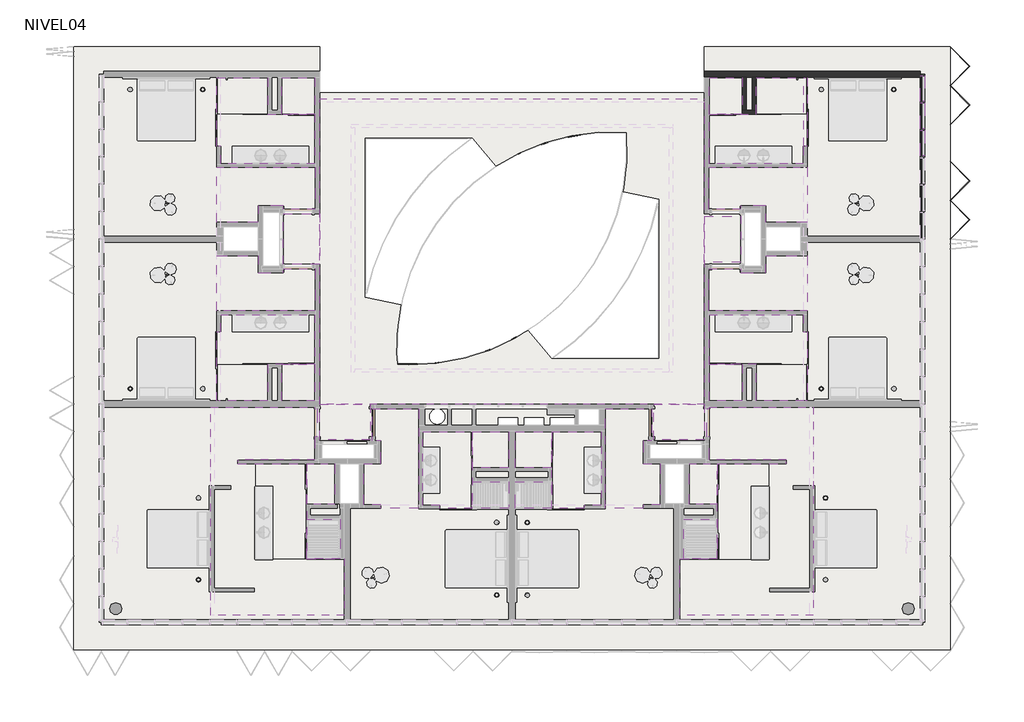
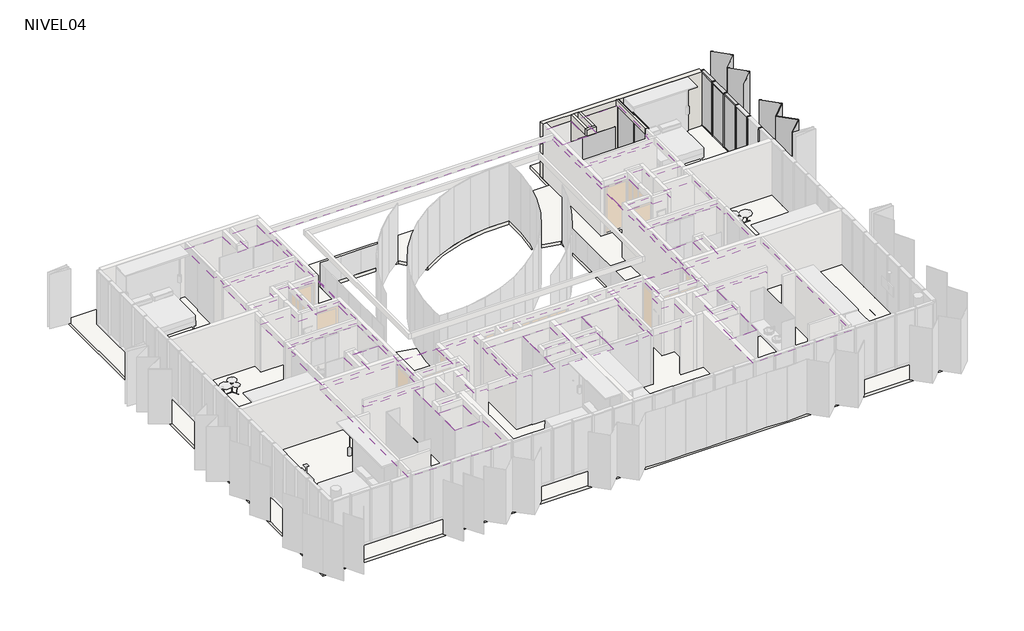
# One storey, part 7 of 8: 31 coverings, 17 slabs, 15 members, 8 plates, 8 walls.
"""IFC4 building model written with IfcOpenShell, lengths in millimetres."""

from ifc_helpers import new_model, si_unit, point, frame, frame_2d, origin, place, context, project, spatial, polyline, circle_curve, trimmed, segment, composite_curve, outline, extrude, faceted_brep, transform, mapped, element, save
from components import rectangular_mullion_50_x_150mm_8dc60d6a, rectangular_mullion_50_x_150mm_324a6438, rectangular_mullion_50_x_150mm_33c2bde1, rectangular_mullion_50_x_150mm_da4cfd0d, folding_hd_folding_hd_45_e61f1cbf, panel_corredera_cr_panel_corredera_0b5135b5, system_panel_cr_shower_c0953742, system_panel_cr_shower_d0c7b907, system_panel_glazed_6ccc6dc1, system_panel_glazed_38744f95

model = new_model("IFC4")

# Units and contexts
model_context = context("Model", 3, world=origin())
ifc_project = project(units=[si_unit("LENGTHUNIT", "METRE", prefix="MILLI")], contexts=[model_context])

# Site, building, storey
site = spatial("IfcSite", under=ifc_project)
building = spatial("IfcBuilding", under=site)
storey = spatial("IfcBuildingStorey", under=building, Name="NIVEL04", Elevation=7940.0)

# Coverings
placement = place(None, origin())
element("IfcCovering", 1, ObjectType="CI_VOLCANITA-ST", at=placement, inside=storey, context=model_context, shape_type="SweptSolid", body=[
    extrude(outline(polyline([(-16848.5934748, 10423.9139241), (-15183.5934748, 10423.9139241), (-15183.5934748, 9233.9139241), (-13643.5934748, 9233.9139241), (-13643.5934748, 7603.9139241), (-16728.5934748, 7603.9139241), (-16728.5934748, 8173.9139241), (-16848.5934748, 8173.9139241), (-16848.5934748, 10423.9139241)])), frame((0.0, 0.0, 10190.0), z_axis=(0.0, 0.0, 1.0), x_axis=(1.0, 0.0, 0.0)), (0.0, 0.0, 1.0), 55.0),
])
element("IfcCovering", 2, ObjectType="CI_VOLCANITA-RH", at=placement, inside=storey, context=model_context, shape_type="SweptSolid", body=[
    extrude(outline(polyline([(-14723.5934748, 10423.9139241), (-13643.5934748, 10423.9139241), (-13643.5934748, 9233.9139241), (-14723.5934748, 9233.9139241), (-14723.5934748, 10423.9139241)])), frame((0.0, 0.0, 10190.0), z_axis=(0.0, 0.0, 1.0), x_axis=(1.0, 0.0, 0.0)), (0.0, 0.0, 1.0), 55.0),
])
element("IfcCovering", 3, ObjectType="CI_VOLCANITA-ST", at=placement, inside=storey, context=model_context, shape_type="SweptSolid", body=[
    extrude(outline(polyline([(2686.4065252, -7185.2015033), (-1683.5934748, -7185.2015033), (-1683.5934748, -5336.0862189), (-453.5934748, -5336.0862189), (-453.5934748, -2216.0860759), (1806.4065252, -2216.0860759), (1806.4065252, -2098.0860759), (-723.5934748, -2098.0860759), (-723.5934748, -1341.0860759), (-798.5934748, -1341.0860759), (-798.5934748, -426.0860759), (-723.5934748, -426.0860759), (-723.5934748, -366.0860759), (2686.4065252, -366.0860759), (2686.4065252, -7185.2015033)])), frame((0.0, 0.0, 10190.0), z_axis=(0.0, 0.0, 1.0), x_axis=(1.0, 0.0, 0.0)), (0.0, 0.0, 1.0), 55.0),
])
element("IfcCovering", 4, ObjectType="CI_VOLCANITA-RH", at=placement, inside=storey, context=model_context, shape_type="SweptSolid", body=[
    extrude(outline(polyline([(-1373.5934748, -3556.0862189), (-1373.5934748, -2226.0860759), (-453.5434748, -2226.0860759), (-453.5434748, -3556.0862189), (-1373.5934748, -3556.0862189)])), frame((0.0, 0.0, 10190.0), z_axis=(0.0, 0.0, 1.0), x_axis=(1.0, 0.0, 0.0)), (0.0, 0.0, 1.0), 55.0),
])
element("IfcCovering", 5, ObjectType="CI_VOLCANITA-RH", at=placement, inside=storey, context=model_context, shape_type="SweptSolid", body=[
    extrude(outline(polyline([(-1553.5934748, -4036.0862189), (-453.5434748, -4036.0862189), (-453.5434748, -5336.1362189), (-1553.5934748, -5336.1362189), (-1553.5934748, -4036.0862189)])), frame((0.0, 0.0, 10190.0), z_axis=(0.0, 0.0, 1.0), x_axis=(1.0, 0.0, 0.0)), (0.0, 0.0, 1.0), 55.0),
])
element("IfcCovering", 6, ObjectType="CI_VOLCANITA-ST", at=placement, inside=storey, context=model_context, shape_type="SweptSolid", body=[
    extrude(outline(polyline([(-17053.5934748, -7185.2015033), (-17053.5934748, -366.0860759), (-13643.5934748, -366.0860759), (-13643.5934748, -426.0860759), (-13568.5934748, -426.0860759), (-13568.5934748, -1341.0860759), (-13643.5934748, -1341.0860759), (-13643.5934748, -2098.0860759), (-16173.5934748, -2098.0860759), (-16173.5934748, -2216.0860759), (-13913.5934748, -2216.0860759), (-13913.5934748, -5336.0862189), (-12683.5934748, -5336.0862189), (-12683.5934748, -7185.2015033), (-17053.5934748, -7185.2015033)])), frame((0.0, 0.0, 10190.0), z_axis=(0.0, 0.0, 1.0), x_axis=(1.0, 0.0, 0.0)), (0.0, 0.0, 1.0), 55.0),
])
element("IfcCovering", 7, ObjectType="CI_VOLCANITA-RH", at=placement, inside=storey, context=model_context, shape_type="SweptSolid", body=[
    extrude(outline(polyline([(-12993.5934748, -3556.0862189), (-13913.6434748, -3556.0862189), (-13913.6434748, -2226.0860759), (-12993.5934748, -2226.0860759), (-12993.5934748, -3556.0862189)])), frame((0.0, 0.0, 10190.0), z_axis=(0.0, 0.0, 1.0), x_axis=(1.0, 0.0, 0.0)), (0.0, 0.0, 1.0), 55.0),
])
element("IfcCovering", 8, ObjectType="CI_VOLCANITA-RH", at=placement, inside=storey, context=model_context, shape_type="SweptSolid", body=[
    extrude(outline(polyline([(-12813.5934748, -4036.0862189), (-12813.5934748, -5336.1362189), (-13913.6434748, -5336.1362189), (-13913.6434748, -4036.0862189), (-12813.5934748, -4036.0862189)])), frame((0.0, 0.0, 10190.0), z_axis=(0.0, 0.0, 1.0), x_axis=(1.0, 0.0, 0.0)), (0.0, 0.0, 1.0), 55.0),
])
element("IfcCovering", 9, ObjectType="CI_VOLCANITA-ST", at=placement, inside=storey, context=model_context, shape_type="SweptSolid", body=[
    extrude(outline(polyline([(-5883.5921504, -1176.0860759), (-4253.5934748, -1176.0860759), (-4253.5934748, -3586.0862189), (-4823.5934748, -3586.0862189), (-4823.5934748, -3686.0862189), (-5883.5921504, -3686.0862189), (-5883.5921504, -1176.0860759)])), frame((0.0, 0.0, 10190.0), z_axis=(0.0, 0.0, 1.0), x_axis=(1.0, 0.0, 0.0)), (0.0, 0.0, 1.0), 55.0),
])
element("IfcCovering", 10, ObjectType="CI_VOLCANITA-RH", at=placement, inside=storey, context=model_context, shape_type="SweptSolid", body=[
    extrude(outline(polyline([(-5883.5921504, -2346.0860759), (-7073.5934748, -2346.0860759), (-7073.5934748, -1176.0860759), (-5883.5921504, -1176.0860759), (-5883.5921504, -2346.0860759)])), frame((0.0, 0.0, 10190.0), z_axis=(0.0, 0.0, 1.0), x_axis=(1.0, 0.0, 0.0)), (0.0, 0.0, 1.0), 55.0),
])
element("IfcCovering", 11, ObjectType="CI_VOLCANITA-RH", at=placement, inside=storey, context=model_context, shape_type="SweptSolid", body=[
    extrude(outline(polyline([(-7073.5934748, -3686.0862189), (-7073.5934748, -2806.0860759), (-5883.5921504, -2806.0860759), (-5883.5921504, -3686.0862189), (-7073.5934748, -3686.0862189)])), frame((0.0, 0.0, 10190.0), z_axis=(0.0, 0.0, 1.0), x_axis=(1.0, 0.0, 0.0)), (0.0, 0.0, 1.0), 55.0),
])
element("IfcCovering", 12, ObjectType="CI_VOLCANITA-ST", at=placement, inside=storey, context=model_context, shape_type="SweptSolid", body=[
    extrude(outline(polyline([(-8483.5947993, -1176.0860759), (-8483.5947993, -3686.0862189), (-9543.5934748, -3686.0862189), (-9543.5934748, -3586.0862189), (-10113.5934748, -3586.0862189), (-10113.5934748, -1176.0860759), (-8483.5947993, -1176.0860759)])), frame((0.0, 0.0, 10190.0), z_axis=(0.0, 0.0, 1.0), x_axis=(1.0, 0.0, 0.0)), (0.0, 0.0, 1.0), 55.0),
])
element("IfcCovering", 13, ObjectType="CI_VOLCANITA-RH", at=placement, inside=storey, context=model_context, shape_type="SweptSolid", body=[
    extrude(outline(polyline([(-8483.5947993, -2346.0860759), (-8483.5947993, -1176.0860759), (-7293.5934748, -1176.0860759), (-7293.5934748, -2346.0860759), (-8483.5947993, -2346.0860759)])), frame((0.0, 0.0, 10190.0), z_axis=(0.0, 0.0, 1.0), x_axis=(1.0, 0.0, 0.0)), (0.0, 0.0, 1.0), 55.0),
])
element("IfcCovering", 14, ObjectType="CI_VOLCANITA-RH", at=placement, inside=storey, context=model_context, shape_type="Brep", body=[
    faceted_brep([(-7293.5934748, -3686.0862189, 10245.0), (-7293.5934748, -3566.0862189, 10245.0), (-7293.5934748, -2806.0860759, 10245.0), (-8483.5947993, -2806.0860759, 10245.0), (-8483.5947993, -3566.0862189, 10245.0), (-8483.5947993, -3686.0862189, 10245.0), (-7293.5934748, -3686.0862189, 10190.0), (-8483.5947993, -3686.0862189, 10190.0), (-8483.5947993, -3566.0862189, 10190.0), (-8483.5947993, -2806.0860759, 10190.0), (-7293.5934748, -2806.0860759, 10190.0), (-7293.5934748, -3566.0862189, 10190.0)], [[[0, 1, 2, 3, 4, 5]], [[6, 7, 8, 9, 10, 11]], [[2, 1, 0, 6, 11, 10]], [[3, 2, 10, 9]], [[5, 4, 3, 9, 8, 7]], [[0, 5, 7, 6]]]),
])
element("IfcCovering", 15, ObjectType="CI_VOLCANITA-ST", at=placement, inside=storey, context=model_context, shape_type="Brep", body=[
    faceted_brep([(-13483.5934748, 9733.9139241, 10245.0), (-13483.5934748, 9623.9139241, 10245.0), (-13483.5934748, -266.0860759, 10245.0), (-883.5934748, -266.0860759, 10245.0), (-883.5934748, 9623.9139241, 10245.0), (-883.5934748, 9733.9139241, 10245.0), (-12333.5934748, 8783.9139241, 10245.0), (-2033.5934748, 8783.9139241, 10245.0), (-2033.5934748, 883.9139241, 10245.0), (-12333.5934748, 883.9139241, 10245.0), (-13483.5934748, 9733.9139241, 10190.0), (-883.5934748, 9733.9139241, 10190.0), (-883.5934748, -266.0860759, 10190.0), (-13483.5934748, -266.0860759, 10190.0), (-12333.5934748, 8783.9139241, 10190.0), (-12333.5934748, 883.9139241, 10190.0), (-2033.5934748, 883.9139241, 10190.0), (-2033.5934748, 8783.9139241, 10190.0)], [[[0, 1, 2, 3, 4, 5], [6, 7, 8, 9]], [[10, 11, 12, 13], [14, 15, 16, 17]], [[7, 6, 14, 17]], [[8, 7, 17, 16]], [[9, 8, 16, 15]], [[6, 9, 15, 14]], [[2, 1, 0, 10, 13]], [[3, 2, 13, 12]], [[5, 4, 3, 12, 11]], [[0, 5, 11, 10]]]),
])
element("IfcCovering", 16, ObjectType="CI_HUNTER DOUGLAS", at=placement, inside=storey, context=model_context, shape_type="SweptSolid", body=[
    extrude(outline(polyline([(306.4065252, 5883.9139241), (306.4065252, 4383.9139241), (-883.5934748, 4383.9139241), (-883.5934748, 5883.9139241), (306.4065252, 5883.9139241)])), frame((0.0, 0.0, 10240.0), z_axis=(0.0, 0.0, 1.0), x_axis=(1.0, 0.0, 0.0)), (0.0, 0.0, 1.0), 55.0),
])
element("IfcCovering", 17, ObjectType="CI_HUNTER DOUGLAS", at=placement, inside=storey, context=model_context, shape_type="SweptSolid", body=[
    extrude(outline(polyline([(-883.5934748, -266.0860759), (-883.5934748, -1438.0860759), (-2533.5934748, -1438.0860759), (-2533.5934748, -266.0860759), (-883.5934748, -266.0860759)])), frame((0.0, 0.0, 10240.0), z_axis=(0.0, 0.0, 1.0), x_axis=(1.0, 0.0, 0.0)), (0.0, 0.0, 1.0), 55.0),
])
element("IfcCovering", 18, ObjectType="CI_HUNTER DOUGLAS", at=placement, inside=storey, context=model_context, shape_type="SweptSolid", body=[
    extrude(outline(polyline([(-14673.5934748, 5958.9139241), (-13483.5934748, 5958.9139241), (-13483.5934748, 4308.9139241), (-14673.5934748, 4308.9139241), (-14673.5934748, 5958.9139241)])), frame((0.0, 0.0, 10240.0), z_axis=(0.0, 0.0, 1.0), x_axis=(1.0, 0.0, 0.0)), (0.0, 0.0, 1.0), 55.0),
])
element("IfcCovering", 19, ObjectType="CI_HUNTER DOUGLAS", at=placement, inside=storey, context=model_context, shape_type="SweptSolid", body=[
    extrude(outline(polyline([(-11833.5934748, -266.0860759), (-11833.5934748, -1438.0860759), (-13483.5934748, -1438.0860759), (-13483.5934748, -266.0860759), (-11833.5934748, -266.0860759)])), frame((0.0, 0.0, 10240.0), z_axis=(0.0, 0.0, 1.0), x_axis=(1.0, 0.0, 0.0)), (0.0, 0.0, 1.0), 55.0),
])
element("IfcCovering", 20, ObjectType="CI_VOLCANITA-ST", at=placement, inside=storey, context=model_context, shape_type="SweptSolid", body=[
    extrude(outline(polyline([(-16848.5934748, 5683.9139241), (-16848.5934748, 7483.9139241), (-13633.5934748, 7483.9139241), (-13633.5934748, 6108.9139241), (-14673.5934748, 6108.9139241), (-14673.5934748, 6233.9139241), (-15493.5934748, 6233.9139241), (-15493.5934748, 5683.9139241), (-16848.5934748, 5683.9139241)])), frame((0.0, 0.0, 10190.0), z_axis=(0.0, 0.0, 1.0), x_axis=(1.0, 0.0, 0.0)), (0.0, 0.0, 1.0), 55.0),
])
element("IfcCovering", 21, ObjectType="CI_VOLCANITA-ST", at=placement, inside=storey, context=model_context, shape_type="SweptSolid", body=[
    extrude(outline(polyline([(-2608.5934748, -416.0860759), (-2608.5934748, -1466.0860759), (-2883.5934748, -1466.0860759), (-2883.5934748, -2216.0860759), (-2333.5934748, -2216.0860759), (-2333.5934748, -3571.0862189), (-2883.5934748, -3571.0862189), (-2883.5934748, -3686.0862189), (-4133.5934748, -3686.0862189), (-4133.5934748, -1066.0860759), (-4133.5934748, -416.0860759), (-2608.5934748, -416.0860759)])), frame((0.0, 0.0, 10190.0), z_axis=(0.0, 0.0, 1.0), x_axis=(1.0, 0.0, 0.0)), (0.0, 0.0, 1.0), 55.0),
])
element("IfcCovering", 22, ObjectType="CI_VOLCANITA-ST", at=placement, inside=storey, context=model_context, shape_type="SweptSolid", body=[
    extrude(outline(polyline([(-10233.5934748, -416.0860759), (-10233.5934748, -1066.0860759), (-10233.5934748, -3686.0862189), (-11483.5934748, -3686.0862189), (-11483.5934748, -3571.0862189), (-12033.5934748, -3571.0862189), (-12033.5934748, -2216.0860759), (-11483.5934748, -2216.0860759), (-11483.5934748, -1466.0860759), (-11758.5934748, -1466.0860759), (-11758.5934748, -416.0860759), (-10233.5934748, -416.0860759)])), frame((0.0, 0.0, 10190.0), z_axis=(0.0, 0.0, 1.0), x_axis=(1.0, 0.0, 0.0)), (0.0, 0.0, 1.0), 55.0),
])
element("IfcCovering", 23, ObjectType="CI_VOLCANITA-ST", at=placement, inside=storey, context=model_context, shape_type="Brep", body=[
    faceted_brep([(2481.4065252, 10423.9139241, 10245.0), (2371.4065252, 10423.9139241, 10245.0), (816.4065252, 10423.9139241, 10245.0), (816.4065252, 9233.9139241, 10245.0), (-723.5934748, 9233.9139241, 10245.0), (-723.5934748, 7603.9139241, 10245.0), (2361.4065252, 7603.9139241, 10245.0), (2361.4065252, 8173.9139241, 10245.0), (2371.4065252, 8173.9139241, 10245.0), (2481.4065252, 8173.9139241, 10245.0), (2481.4065252, 10423.9139241, 10190.0), (2481.4065252, 8173.9139241, 10190.0), (2361.4065252, 8173.9139241, 10190.0), (2361.4065252, 7603.9139241, 10190.0), (-723.5934748, 7603.9139241, 10190.0), (-723.5934748, 9233.9139241, 10190.0), (816.4065252, 9233.9139241, 10190.0), (816.4065252, 10423.9139241, 10190.0), (2371.4065252, 10423.9139241, 10190.0)], [[[0, 1, 2, 3, 4, 5, 6, 7, 8, 9]], [[10, 11, 12, 13, 14, 15, 16, 17, 18]], [[2, 1, 0, 10, 18, 17]], [[3, 2, 17, 16]], [[4, 3, 16, 15]], [[5, 4, 15, 14]], [[6, 5, 14, 13]], [[7, 6, 13, 12]], [[9, 8, 7, 12, 11]], [[0, 9, 11, 10]]]),
])
element("IfcCovering", 24, ObjectType="CI_VOLCANITA-RH", at=placement, inside=storey, context=model_context, shape_type="SweptSolid", body=[
    extrude(outline(polyline([(356.4065252, 10423.9139241), (356.4065252, 9233.9139241), (-723.5934748, 9233.9139241), (-723.5934748, 10423.9139241), (356.4065252, 10423.9139241)])), frame((0.0, 0.0, 10190.0), z_axis=(0.0, 0.0, 1.0), x_axis=(1.0, 0.0, 0.0)), (0.0, 0.0, 1.0), 55.0),
])
element("IfcCovering", 25, ObjectType="CI_VOLCANITA-ST", at=placement, inside=storey, context=model_context, shape_type="Brep", body=[
    faceted_brep([(-16848.5934748, -156.0860759, 10245.0), (-16738.5934748, -156.0860759, 10245.0), (-15183.5934748, -156.0860759, 10245.0), (-15183.5934748, 1033.9139241, 10245.0), (-13643.5934748, 1033.9139241, 10245.0), (-13643.5934748, 2663.9139241, 10245.0), (-16728.5934748, 2663.9139241, 10245.0), (-16728.5934748, 2093.9139241, 10245.0), (-16738.5934748, 2093.9139241, 10245.0), (-16848.5934748, 2093.9139241, 10245.0), (-16848.5934748, -156.0860759, 10190.0), (-16848.5934748, 2093.9139241, 10190.0), (-16728.5934748, 2093.9139241, 10190.0), (-16728.5934748, 2663.9139241, 10190.0), (-13643.5934748, 2663.9139241, 10190.0), (-13643.5934748, 1033.9139241, 10190.0), (-15183.5934748, 1033.9139241, 10190.0), (-15183.5934748, -156.0860759, 10190.0), (-16738.5934748, -156.0860759, 10190.0)], [[[0, 1, 2, 3, 4, 5, 6, 7, 8, 9]], [[10, 11, 12, 13, 14, 15, 16, 17, 18]], [[2, 1, 0, 10, 18, 17]], [[3, 2, 17, 16]], [[4, 3, 16, 15]], [[5, 4, 15, 14]], [[6, 5, 14, 13]], [[7, 6, 13, 12]], [[9, 8, 7, 12, 11]], [[0, 9, 11, 10]]]),
])
element("IfcCovering", 26, ObjectType="CI_VOLCANITA-RH", at=placement, inside=storey, context=model_context, shape_type="SweptSolid", body=[
    extrude(outline(polyline([(-14723.5934748, -156.0860759), (-14723.5934748, 1033.9139241), (-13643.5934748, 1033.9139241), (-13643.5934748, -156.0860759), (-14723.5934748, -156.0860759)])), frame((0.0, 0.0, 10190.0), z_axis=(0.0, 0.0, 1.0), x_axis=(1.0, 0.0, 0.0)), (0.0, 0.0, 1.0), 55.0),
])
element("IfcCovering", 27, ObjectType="CI_VOLCANITA-ST", at=placement, inside=storey, context=model_context, shape_type="Brep", body=[
    faceted_brep([(2481.4065252, -156.0860759, 10245.0), (2481.4065252, 2093.9139241, 10245.0), (2371.4065252, 2093.9139241, 10245.0), (2361.4065252, 2093.9139241, 10245.0), (2361.4065252, 2663.9139241, 10245.0), (-723.5934748, 2663.9139241, 10245.0), (-723.5934748, 1033.9139241, 10245.0), (816.4065252, 1033.9139241, 10245.0), (816.4065252, -156.0860759, 10245.0), (2371.4065252, -156.0860759, 10245.0), (2481.4065252, -156.0860759, 10190.0), (2371.4065252, -156.0860759, 10190.0), (816.4065252, -156.0860759, 10190.0), (816.4065252, 1033.9139241, 10190.0), (-723.5934748, 1033.9139241, 10190.0), (-723.5934748, 2663.9139241, 10190.0), (2361.4065252, 2663.9139241, 10190.0), (2361.4065252, 2093.9139241, 10190.0), (2481.4065252, 2093.9139241, 10190.0)], [[[0, 1, 2, 3, 4, 5, 6, 7, 8, 9]], [[10, 11, 12, 13, 14, 15, 16, 17, 18]], [[0, 9, 8, 12, 11, 10]], [[8, 7, 13, 12]], [[7, 6, 14, 13]], [[6, 5, 15, 14]], [[5, 4, 16, 15]], [[4, 3, 17, 16]], [[3, 2, 1, 18, 17]], [[1, 0, 10, 18]]]),
])
element("IfcCovering", 28, ObjectType="CI_VOLCANITA-RH", at=placement, inside=storey, context=model_context, shape_type="SweptSolid", body=[
    extrude(outline(polyline([(356.4065252, -156.0860759), (-723.5934748, -156.0860759), (-723.5934748, 1033.9139241), (356.4065252, 1033.9139241), (356.4065252, -156.0860759)])), frame((0.0, 0.0, 10190.0), z_axis=(0.0, 0.0, 1.0), x_axis=(1.0, 0.0, 0.0)), (0.0, 0.0, 1.0), 55.0),
])
element("IfcCovering", 29, ObjectType="CI_VOLCANITA-ST", at=placement, inside=storey, context=model_context, shape_type="SweptSolid", body=[
    extrude(outline(polyline([(2481.4065252, 5683.9139241), (1126.4065252, 5683.9139241), (1126.4065252, 6233.9139241), (306.4065252, 6233.9139241), (306.4065252, 6108.9139241), (-733.5934748, 6108.9139241), (-733.5934748, 7483.9139241), (2481.4065252, 7483.9139241), (2481.4065252, 5683.9139241)])), frame((0.0, 0.0, 10190.0), z_axis=(0.0, 0.0, 1.0), x_axis=(1.0, 0.0, 0.0)), (0.0, 0.0, 1.0), 55.0),
])
element("IfcCovering", 30, ObjectType="CI_VOLCANITA-ST", at=placement, inside=storey, context=model_context, shape_type="SweptSolid", body=[
    extrude(outline(polyline([(-16848.5934748, 4583.9139241), (-15493.5934748, 4583.9139241), (-15493.5934748, 4033.9139241), (-14673.5934748, 4033.9139241), (-14673.5934748, 4158.9139241), (-13633.5934748, 4158.9139241), (-13633.5934748, 2783.9139241), (-16848.5934748, 2783.9139241), (-16848.5934748, 4583.9139241)])), frame((0.0, 0.0, 10190.0), z_axis=(0.0, 0.0, 1.0), x_axis=(1.0, 0.0, 0.0)), (0.0, 0.0, 1.0), 55.0),
])
element("IfcCovering", 31, ObjectType="CI_VOLCANITA-ST", at=placement, inside=storey, context=model_context, shape_type="SweptSolid", body=[
    extrude(outline(polyline([(2481.4065252, 4583.9139241), (2481.4065252, 2783.9139241), (-733.5934748, 2783.9139241), (-733.5934748, 4158.9139241), (306.4065252, 4158.9139241), (306.4065252, 4033.9139241), (1126.4065252, 4033.9139241), (1126.4065252, 4583.9139241), (2481.4065252, 4583.9139241)])), frame((0.0, 0.0, 10190.0), z_axis=(0.0, 0.0, 1.0), x_axis=(1.0, 0.0, 0.0)), (0.0, 0.0, 1.0), 55.0),
])

# Members
rectangular_mullion_50_x_150mm_shape = rectangular_mullion_50_x_150mm_8dc60d6a(model_context)
element("IfcMember", 32, ObjectType="Rectangular Mullion : 50 x 150mm", at=placement, inside=storey, context=model_context, shape_type="MappedRepresentation", body=[
    mapped(rectangular_mullion_50_x_150mm_shape, transform((6266.4065252, 9658.9139237, 10490.0), x_axis=(0.0, 0.0, 1.0), y_axis=(-1.0, 0.0, 0.0), z_axis=(0.0, -1.0, 0.0))),
])
rectangular_mullion_50_x_150mm_2_shape = rectangular_mullion_50_x_150mm_324a6438(model_context)
element("IfcMember", 33, ObjectType="Rectangular Mullion : 50 x 150mm", at=placement, inside=storey, context=model_context, shape_type="MappedRepresentation", body=[
    mapped(rectangular_mullion_50_x_150mm_2_shape, transform((6266.4065252, 8758.9139237, 10490.0), x_axis=(0.0, 0.0, 1.0), y_axis=(-1.0, 0.0, 0.0), z_axis=(0.0, -1.0, 0.0))),
])
element("IfcMember", 34, ObjectType="Rectangular Mullion : 50 x 150mm", at=placement, inside=storey, context=model_context, shape_type="MappedRepresentation", body=[
    mapped(rectangular_mullion_50_x_150mm_2_shape, transform((6266.4065252, 7858.9139237, 10490.0), x_axis=(0.0, 0.0, 1.0), y_axis=(-1.0, 0.0, 0.0), z_axis=(0.0, -1.0, 0.0))),
])
element("IfcMember", 35, ObjectType="Rectangular Mullion : 50 x 150mm", at=placement, inside=storey, context=model_context, shape_type="MappedRepresentation", body=[
    mapped(rectangular_mullion_50_x_150mm_shape, transform((6266.4065252, 10483.9139241, 7920.0), x_axis=(0.0, 0.0, -1.0), y_axis=(-1.0, 0.0, 0.0), z_axis=(0.0, 1.0, 0.0))),
])
element("IfcMember", 36, ObjectType="Rectangular Mullion : 50 x 150mm", at=placement, inside=storey, context=model_context, shape_type="MappedRepresentation", body=[
    mapped(rectangular_mullion_50_x_150mm_2_shape, transform((6266.4065252, 9608.9139237, 7920.0), x_axis=(0.0, 0.0, -1.0), y_axis=(-1.0, 0.0, 0.0), z_axis=(0.0, 1.0, 0.0))),
])
element("IfcMember", 37, ObjectType="Rectangular Mullion : 50 x 150mm", at=placement, inside=storey, context=model_context, shape_type="MappedRepresentation", body=[
    mapped(rectangular_mullion_50_x_150mm_2_shape, transform((6266.4065252, 8708.9139237, 7920.0), x_axis=(0.0, 0.0, -1.0), y_axis=(-1.0, 0.0, 0.0), z_axis=(0.0, 1.0, 0.0))),
])
element("IfcMember", 38, ObjectType="Rectangular Mullion : 50 x 150mm", at=placement, inside=storey, context=model_context, shape_type="MappedRepresentation", body=[
    mapped(rectangular_mullion_50_x_150mm_2_shape, transform((6266.4065252, 7808.9139237, 7920.0), x_axis=(0.0, 0.0, -1.0), y_axis=(-1.0, 0.0, 0.0), z_axis=(0.0, 1.0, 0.0))),
])
element("IfcMember", 39, ObjectType="Rectangular Mullion : 50 x 150mm", at=placement, inside=storey, context=model_context, shape_type="MappedRepresentation", body=[
    mapped(rectangular_mullion_50_x_150mm_2_shape, transform((6266.4065252, 6908.9139237, 7920.0), x_axis=(0.0, 0.0, -1.0), y_axis=(-1.0, 0.0, 0.0), z_axis=(0.0, 1.0, 0.0))),
])
element("IfcMember", 40, ObjectType="Rectangular Mullion : 50 x 150mm", at=placement, inside=storey, context=model_context, shape_type="MappedRepresentation", body=[
    mapped(rectangular_mullion_50_x_150mm_2_shape, transform((6266.4065252, 6008.9139237, 7920.0), x_axis=(0.0, 0.0, -1.0), y_axis=(-1.0, 0.0, 0.0), z_axis=(0.0, 1.0, 0.0))),
])
rectangular_mullion_50_x_150mm_3_shape = rectangular_mullion_50_x_150mm_33c2bde1(model_context)
element("IfcMember", 41, ObjectType="Rectangular Mullion : 50 x 150mm", at=placement, inside=storey, context=model_context, shape_type="MappedRepresentation", body=[
    mapped(rectangular_mullion_50_x_150mm_3_shape, transform((6266.4065252, 9633.9139237, 7920.0), x_axis=(0.0, -1.0, 0.0), y_axis=(-1.0, 0.0, 0.0), z_axis=(0.0, 0.0, -1.0))),
])
element("IfcMember", 42, ObjectType="Rectangular Mullion : 50 x 150mm", at=placement, inside=storey, context=model_context, shape_type="MappedRepresentation", body=[
    mapped(rectangular_mullion_50_x_150mm_3_shape, transform((6266.4065252, 8733.9139237, 7920.0), x_axis=(0.0, -1.0, 0.0), y_axis=(-1.0, 0.0, 0.0), z_axis=(0.0, 0.0, -1.0))),
])
element("IfcMember", 43, ObjectType="Rectangular Mullion : 50 x 150mm", at=placement, inside=storey, context=model_context, shape_type="MappedRepresentation", body=[
    mapped(rectangular_mullion_50_x_150mm_3_shape, transform((6266.4065252, 7833.9139237, 7920.0), x_axis=(0.0, -1.0, 0.0), y_axis=(-1.0, 0.0, 0.0), z_axis=(0.0, 0.0, -1.0))),
])
element("IfcMember", 44, ObjectType="Rectangular Mullion : 50 x 150mm", at=placement, inside=storey, context=model_context, shape_type="MappedRepresentation", body=[
    mapped(rectangular_mullion_50_x_150mm_3_shape, transform((6266.4065252, 6933.9139237, 7920.0), x_axis=(0.0, -1.0, 0.0), y_axis=(-1.0, 0.0, 0.0), z_axis=(0.0, 0.0, -1.0))),
])
element("IfcMember", 45, ObjectType="Rectangular Mullion : 50 x 150mm", at=placement, inside=storey, context=model_context, shape_type="MappedRepresentation", body=[
    mapped(rectangular_mullion_50_x_150mm_3_shape, transform((6266.4065252, 6033.9139237, 7920.0), x_axis=(0.0, -1.0, 0.0), y_axis=(-1.0, 0.0, 0.0), z_axis=(0.0, 0.0, -1.0))),
])
rectangular_mullion_50_x_150mm_4_shape = rectangular_mullion_50_x_150mm_da4cfd0d(model_context)
element("IfcMember", 46, ObjectType="Rectangular Mullion : 50 x 150mm", at=placement, inside=storey, context=model_context, shape_type="MappedRepresentation", body=[
    mapped(rectangular_mullion_50_x_150mm_4_shape, transform((6266.4065252, 10533.9139241, 10490.0), x_axis=(0.0, 1.0, 0.0), y_axis=(-1.0, 0.0, 0.0), z_axis=(0.0, 0.0, 1.0))),
])

# Plates
folding_hd_folding_hd_45_shape = folding_hd_folding_hd_45_e61f1cbf(model_context)
element("IfcPlate", 47, ObjectType="FOLDING HD : FOLDING HD 45", at=placement, inside=storey, context=model_context, shape_type="MappedRepresentation", body=[
    mapped(folding_hd_folding_hd_45_shape, transform((7166.4065252, 8283.9139241, 7920.0), x_axis=(0.0, -1.0, 0.0), y_axis=(1.0, 0.0, 0.0), z_axis=(0.0, 0.0, 1.0))),
])
panel_corredera_cr_panel_corredera_shape = panel_corredera_cr_panel_corredera_0b5135b5(model_context)
element("IfcPlate", 48, ObjectType="PANEL CORREDERA : CR_PANEL CORREDERA", at=placement, inside=storey, context=model_context, shape_type="MappedRepresentation", body=[
    mapped(panel_corredera_cr_panel_corredera_shape, transform((2481.4065252, 8703.9139241, 7940.0), x_axis=(0.0, 1.0, 0.0), y_axis=(-1.0, 0.0, 0.0), z_axis=(0.0, 0.0, 1.0))),
])
system_panel_cr_shower_shape = system_panel_cr_shower_c0953742(model_context)
element("IfcPlate", 49, ObjectType="System Panel : CR-SHOWER", at=placement, inside=storey, context=model_context, shape_type="MappedRepresentation", body=[
    mapped(system_panel_cr_shower_shape, transform((811.7398585, 9233.9139241, 7940.0), x_axis=(-1.0, 0.0, 0.0), y_axis=(0.0, -1.0, 0.0), z_axis=(0.0, 0.0, 1.0))),
])
system_panel_cr_shower_2_shape = system_panel_cr_shower_d0c7b907(model_context)
element("IfcPlate", 50, ObjectType="System Panel : CR-SHOWER", at=placement, inside=storey, context=model_context, shape_type="MappedRepresentation", body=[
    mapped(system_panel_cr_shower_2_shape, transform((2481.4065252, 9833.9139241, 7940.0), x_axis=(0.0, 1.0, 0.0), y_axis=(-1.0, 0.0, 0.0), z_axis=(0.0, 0.0, 1.0))),
])
system_panel_glazed_shape = system_panel_glazed_6ccc6dc1(model_context)
element("IfcPlate", 51, ObjectType="System Panel : Glazed", at=placement, inside=storey, context=model_context, shape_type="MappedRepresentation", body=[
    mapped(system_panel_glazed_shape, transform((6266.4065252, 9183.9139237, 7970.0), x_axis=(0.0, -1.0, 0.0), y_axis=(1.0, 0.0, 0.0), z_axis=(0.0, 0.0, 1.0))),
])
element("IfcPlate", 52, ObjectType="System Panel : Glazed", at=placement, inside=storey, context=model_context, shape_type="MappedRepresentation", body=[
    mapped(system_panel_glazed_shape, transform((6266.4065252, 8283.9139237, 7970.0), x_axis=(0.0, -1.0, 0.0), y_axis=(1.0, 0.0, 0.0), z_axis=(0.0, 0.0, 1.0))),
])
element("IfcPlate", 53, ObjectType="System Panel : Glazed", at=placement, inside=storey, context=model_context, shape_type="MappedRepresentation", body=[
    mapped(system_panel_glazed_shape, transform((6266.4065252, 7383.9139237, 7970.0), x_axis=(0.0, -1.0, 0.0), y_axis=(1.0, 0.0, 0.0), z_axis=(0.0, 0.0, 1.0))),
])
system_panel_glazed_2_shape = system_panel_glazed_38744f95(model_context)
element("IfcPlate", 54, ObjectType="System Panel : Glazed", at=placement, inside=storey, context=model_context, shape_type="MappedRepresentation", body=[
    mapped(system_panel_glazed_2_shape, transform((6266.4065252, 10071.4139239, 7970.0), x_axis=(0.0, -1.0, 0.0), y_axis=(1.0, 0.0, 0.0), z_axis=(0.0, 0.0, 1.0))),
])

# Slabs
element("IfcSlab", 55, ObjectType="PAV-PORCELANATO BAÑOS", at=placement, inside=storey, context=model_context, shape_type="SweptSolid", body=[
    extrude(outline(polyline([(-16848.5934748, 9233.9139241), (-14733.5934748, 9233.9139241), (-14733.5934748, 10433.9139241), (-13633.5934748, 10433.9139241), (-13633.5934748, 7593.9139241), (-16738.5934748, 7593.9139241), (-16738.5934748, 8173.9139241), (-16848.5934748, 8173.9139241), (-16848.5934748, 9233.9139241)])), frame((0.0, 0.0, 7920.0), z_axis=(0.0, 0.0, 1.0), x_axis=(1.0, 0.0, 0.0)), (0.0, 0.0, 1.0), 20.0),
])
element("IfcSlab", 56, ObjectType="PAV-PORCELANATO BAÑOS", at=placement, inside=storey, context=model_context, shape_type="SweptSolid", body=[
    extrude(outline(polyline([(-4243.5934748, -1166.0860759), (-4243.5934748, -3596.0862189), (-4823.5934748, -3596.0862189), (-4823.5934748, -3706.0862189), (-5883.5921504, -3706.0862189), (-5883.5921504, -2366.0860759), (-7083.5934748, -2366.0860759), (-7083.5934748, -1166.0860759), (-4243.5934748, -1166.0860759)])), frame((0.0, 0.0, 7920.0), z_axis=(0.0, 0.0, 1.0), x_axis=(1.0, 0.0, 0.0)), (0.0, 0.0, 1.0), 20.0),
])
element("IfcSlab", 57, ObjectType="PAV-PORCELANATO BAÑOS", at=placement, inside=storey, context=model_context, shape_type="SweptSolid", body=[
    extrude(outline(polyline([(-10123.5934748, -1166.0860759), (-7283.5934748, -1166.0860759), (-7283.5934748, -2366.0860759), (-8483.5947993, -2366.0860759), (-8483.5947993, -3706.0862189), (-9543.5934748, -3706.0862189), (-9543.5934748, -3596.0862189), (-10123.5934748, -3596.0862189), (-10123.5934748, -1166.0860759)])), frame((0.0, 0.0, 7920.0), z_axis=(0.0, 0.0, 1.0), x_axis=(1.0, 0.0, 0.0)), (0.0, 0.0, 1.0), 20.0),
])
element("IfcSlab", 58, ObjectType="PAV-PORCELANATO BAÑOS", at=placement, inside=storey, context=model_context, shape_type="SweptSolid", body=[
    extrude(outline(polyline([(-1383.5934748, -2216.0860759), (1226.4065252, -2216.0860759), (1226.4065252, -5348.5862189), (-453.5934748, -5348.5862189), (-453.5934748, -3596.0862189), (-1383.5934748, -3596.0862189), (-1383.5934748, -2216.0860759)])), frame((0.0, 0.0, 7920.0), z_axis=(0.0, 0.0, 1.0), x_axis=(1.0, 0.0, 0.0)), (0.0, 0.0, 1.0), 20.0),
])
element("IfcSlab", 59, ObjectType="PAV-PORCELANATO BAÑOS", at=placement, inside=storey, context=model_context, shape_type="SweptSolid", body=[
    extrude(outline(polyline([(-12983.5934748, -2216.0860759), (-12983.5934748, -3596.0862189), (-13913.5934748, -3596.0862189), (-13913.5934748, -5348.5862189), (-15593.5934748, -5348.5862189), (-15593.5934748, -2216.0860759), (-12983.5934748, -2216.0860759)])), frame((0.0, 0.0, 7920.0), z_axis=(0.0, 0.0, 1.0), x_axis=(1.0, 0.0, 0.0)), (0.0, 0.0, 1.0), 20.0),
])
element("IfcSlab", 60, ObjectType="PAV-PORCELANATO BAÑOS", at=placement, inside=storey, context=model_context, shape_type="SweptSolid", body=[
    extrude(outline(polyline([(2481.4065252, 9233.9139241), (2481.4065252, 8173.9139241), (2371.4065252, 8173.9139241), (2371.4065252, 7593.9139241), (-733.5934748, 7593.9139241), (-733.5934748, 10433.9139241), (366.4065252, 10433.9139241), (366.4065252, 9233.9139241), (2481.4065252, 9233.9139241)])), frame((0.0, 0.0, 7920.0), z_axis=(0.0, 0.0, 1.0), x_axis=(1.0, 0.0, 0.0)), (0.0, 0.0, 1.0), 20.0),
])
element("IfcSlab", 61, ObjectType="PAV-PORCELANATO BAÑOS", at=placement, inside=storey, context=model_context, shape_type="SweptSolid", body=[
    extrude(outline(polyline([(-16848.5934748, 1033.9139241), (-16848.5934748, 2093.9139241), (-16738.5934748, 2093.9139241), (-16738.5934748, 2673.9139241), (-13633.5934748, 2673.9139241), (-13633.5934748, -166.0860759), (-14733.5934748, -166.0860759), (-14733.5934748, 1033.9139241), (-16848.5934748, 1033.9139241)])), frame((0.0, 0.0, 7920.0), z_axis=(0.0, 0.0, 1.0), x_axis=(1.0, 0.0, 0.0)), (0.0, 0.0, 1.0), 20.0),
])
element("IfcSlab", 62, ObjectType="PAV-PORCELANATO BAÑOS", at=placement, inside=storey, context=model_context, shape_type="SweptSolid", body=[
    extrude(outline(polyline([(2481.4065252, 1033.9139241), (366.4065252, 1033.9139241), (366.4065252, -166.0860759), (-733.5934748, -166.0860759), (-733.5934748, 2673.9139241), (2371.4065252, 2673.9139241), (2371.4065252, 2093.9139241), (2481.4065252, 2093.9139241), (2481.4065252, 1033.9139241)])), frame((0.0, 0.0, 7920.0), z_axis=(0.0, 0.0, 1.0), x_axis=(1.0, 0.0, 0.0)), (0.0, 0.0, 1.0), 20.0),
])
element("IfcSlab", 63, ObjectType="LOSA-150mm", at=placement, inside=storey, context=model_context, shape_type="SweptSolid", body=[
    extrude(outline(polyline([(7166.4065252, 11433.9139241), (7166.4065252, -8316.0860759), (-21533.5934748, -8316.0860759), (-21533.5934748, 11433.9139241), (-13483.5934748, 11433.9139241), (-13483.5934748, 9933.9139241), (-883.5934748, 9933.9139241), (-883.5934748, 11433.9139241), (7166.4065252, 11433.9139241)]), holes=[composite_curve([segment(polyline([(-11983.5934748, 8433.9139241), (-11983.5934748, 3230.5248672), (-10808.7040338, 2986.171001)]), True, "CONTINUOUS"), segment(trimmed(circle_curve(frame_2d((-3900.8956512, 1587.773315)), 7047.9310964), [point((-10808.7040338, 2986.171001))], [point((-10928.0704932, 1047.2675525))], True, "CARTESIAN"), True, "CONTINUOUS"), segment(trimmed(circle_curve(frame_2d((-10466.2912985, 8080.0545331)), 7047.9310964), [point((-10928.0704932, 1047.2675525))], [point((-6658.8976812, 2149.0270857))], True, "CARTESIAN"), True, "CONTINUOUS"), segment(polyline([(-6658.8976812, 2149.0270857), (-5883.5934748, 1233.9139241), (-2383.5934748, 1233.9139241), (-2383.5934748, 6437.3029809), (-3558.5568432, 6681.2917105)]), True, "CONTINUOUS"), segment(trimmed(circle_curve(frame_2d((-10466.2912985, 8080.0545331)), 7047.9310964), [point((-3558.5568432, 6681.2917105))], [point((-3439.1164565, 8620.5602956))], True, "CARTESIAN"), True, "CONTINUOUS"), segment(trimmed(circle_curve(frame_2d((-3900.8956512, 1587.773315)), 7047.9310964), [point((-3439.1164565, 8620.5602956))], [point((-7708.2892685, 7518.8007624))], True, "CARTESIAN"), True, "CONTINUOUS"), segment(polyline([(-7708.2892685, 7518.8007624), (-8483.5934748, 8433.9139241), (-11983.5934748, 8433.9139241)]), True, "CONTINUOUS")], self_intersect=False), composite_curve([segment(trimmed(circle_curve(frame_2d((-9631.0934748, -676.0860759)), 250.0), [point((-9881.0934748, -676.0860759))], [point((-9381.0934748, -676.0860759))], True, "CARTESIAN"), True, "CONTINUOUS"), segment(trimmed(circle_curve(frame_2d((-9631.0934748, -676.0860759)), 250.0), [point((-9381.0934748, -676.0860759))], [point((-9881.0934748, -676.0860759))], True, "CARTESIAN"), True, "CONTINUOUS")], self_intersect=False), polyline([(-5133.5934748, -716.0860759), (-5933.5934748, -716.0860759), (-5933.5934748, -966.0860759), (-5133.5934748, -966.0860759), (-5133.5934748, -716.0860759)]), polyline([(-5013.5934748, -386.0860759), (-5013.5934748, -966.0860759), (-4333.5934748, -966.0860759), (-4333.5934748, -386.0860759), (-5013.5934748, -386.0860759)]), polyline([(-7638.5934748, -716.0860759), (-7638.5934748, -966.0860759), (-6988.5934748, -966.0860759), (-6988.5934748, -716.0860759), (-7638.5934748, -716.0860759)]), polyline([(-6788.5934748, -716.0860759), (-6788.5934748, -966.0860759), (-6138.5934748, -966.0860759), (-6138.5934748, -716.0860759), (-6788.5934748, -716.0860759)]), polyline([(-16648.5934748, 4733.9139241), (-15493.5934748, 4733.9139241), (-15493.5934748, 5533.9139241), (-16648.5934748, 5533.9139241), (-16648.5934748, 4733.9139241)]), polyline([(-14783.5934748, 6013.9139241), (-15343.5934748, 6013.9139241), (-15343.5934748, 4253.9139241), (-14783.5934748, 4253.9139241), (-14783.5934748, 6013.9139241)]), polyline([(-11703.5934748, -1576.0860759), (-13423.5934748, -1576.0860759), (-13423.5934748, -2066.0860759), (-11703.5934748, -2066.0860759), (-11703.5934748, -1576.0860759)]), polyline([(-12183.5934748, -3536.0862189), (-12183.5934748, -2216.0860759), (-12833.5934748, -2216.0860759), (-12833.5934748, -3536.0862189), (-12183.5934748, -3536.0862189)]), polyline([(2281.4065252, 4733.9139241), (2281.4065252, 5533.9139241), (1126.4065252, 5533.9139241), (1126.4065252, 4733.9139241), (2281.4065252, 4733.9139241)]), polyline([(416.4065252, 6013.9139241), (416.4065252, 4253.9139241), (976.4065252, 4253.9139241), (976.4065252, 6013.9139241), (416.4065252, 6013.9139241)]), polyline([(-2663.5934748, -1576.0860759), (-2663.5934748, -2066.0860759), (-943.5934748, -2066.0860759), (-943.5934748, -1576.0860759), (-2663.5934748, -1576.0860759)]), polyline([(-2183.5934748, -3536.0862189), (-1533.5934748, -3536.0862189), (-1533.5934748, -2216.0860759), (-2183.5934748, -2216.0860759), (-2183.5934748, -3536.0862189)])]), frame((0.0, 0.0, 7770.0), z_axis=(0.0, 0.0, 1.0), x_axis=(1.0, 0.0, 0.0)), (0.0, 0.0, 1.0), 150.0),
])
element("IfcSlab", 64, ObjectType="PAV-MADERA", at=placement, inside=storey, context=model_context, shape_type="SweptSolid", body=[
    extrude(outline(polyline([(-16848.5934748, 10433.9139241), (-16848.5934748, 7483.9139241), (-13633.5934748, 7483.9139241), (-13633.5934748, 6108.9139241), (-13733.5934748, 6108.9139241), (-13733.5934748, 6033.9139241), (-14648.5934748, 6033.9139241), (-14648.5934748, 6233.9139241), (-15493.5934748, 6233.9139241), (-15493.5934748, 5683.9139241), (-16848.5934748, 5683.9139241), (-16848.5934748, 5233.9139241), (-20558.5934748, 5233.9139241), (-20558.5934748, 10433.9139241), (-16848.5934748, 10433.9139241)])), frame((0.0, 0.0, 7920.0), z_axis=(0.0, 0.0, 1.0), x_axis=(1.0, 0.0, 0.0)), (0.0, 0.0, 1.0), 20.0),
])
element("IfcSlab", 65, ObjectType="PAV-MADERA", at=placement, inside=storey, context=model_context, shape_type="SweptSolid", body=[
    extrude(outline(polyline([(-4133.5934748, -386.0860759), (-2683.5934748, -386.0860759), (-2683.5934748, -426.0860759), (-2608.5934748, -426.0860759), (-2608.5934748, -1341.0860759), (-2683.5934748, -1341.0860759), (-2683.5934748, -1466.0860759), (-2883.5934748, -1466.0860759), (-2883.5934748, -2216.0860759), (-2333.5934748, -2216.0860759), (-2333.5934748, -3571.0862189), (-2883.5934748, -3571.0862189), (-2883.5934748, -3686.0862189), (-1883.5934748, -3686.0862189), (-1883.5934748, -7341.0860759), (-7083.5934748, -7341.0860759), (-7083.5934748, -3706.0862189), (-4133.5934748, -3706.0862189), (-4133.5934748, -386.0860759)])), frame((0.0, 0.0, 7920.0), z_axis=(0.0, 0.0, 1.0), x_axis=(1.0, 0.0, 0.0)), (0.0, 0.0, 1.0), 20.0),
])
element("IfcSlab", 66, ObjectType="PAV-MADERA", at=placement, inside=storey, context=model_context, shape_type="SweptSolid", body=[
    extrude(outline(polyline([(-10233.5934748, -386.0860759), (-10233.5934748, -3706.0862189), (-7283.5934748, -3706.0862189), (-7283.5934748, -7341.0860759), (-12483.5934748, -7341.0860759), (-12483.5934748, -3686.0862189), (-11483.5934748, -3686.0862189), (-11483.5934748, -3571.0862189), (-12033.5934748, -3571.0862189), (-12033.5934748, -2216.0860759), (-11483.5934748, -2216.0860759), (-11483.5934748, -1466.0860759), (-11683.5934748, -1466.0860759), (-11683.5934748, -1341.0860759), (-11758.5934748, -1341.0860759), (-11758.5934748, -426.0860759), (-11683.5934748, -426.0860759), (-11683.5934748, -386.0860759), (-10233.5934748, -386.0860759)])), frame((0.0, 0.0, 7920.0), z_axis=(0.0, 0.0, 1.0), x_axis=(1.0, 0.0, 0.0)), (0.0, 0.0, 1.0), 20.0),
])
element("IfcSlab", 67, ObjectType="PAV-MADERA", at=placement, inside=storey, context=model_context, shape_type="SweptSolid", body=[
    extrude(outline(polyline([(6191.4065252, -366.0860759), (6191.4065252, -7341.0860759), (-1683.5934748, -7341.0860759), (-1683.5934748, -5348.5862189), (1226.4065252, -5348.5862189), (1226.4065252, -2216.0860759), (1806.4065252, -2216.0860759), (1806.4065252, -2106.0860759), (-723.5934748, -2106.0860759), (-723.5934748, -1341.0860759), (-798.5934748, -1341.0860759), (-798.5934748, -366.0860759), (6191.4065252, -366.0860759)]), holes=[polyline([(2686.4065252, -6411.0658633), (2686.4065252, -2951.0658633), (2026.4065252, -2951.0658633), (2026.4065252, -3061.0658633), (2576.4065252, -3061.0658633), (2576.4065252, -6301.0658633), (1257.7462079, -6301.0658633), (1257.7462079, -6411.0658633), (2686.4065252, -6411.0658633)])]), frame((0.0, 0.0, 7920.0), z_axis=(0.0, 0.0, 1.0), x_axis=(1.0, 0.0, 0.0)), (0.0, 0.0, 1.0), 20.0),
])
element("IfcSlab", 68, ObjectType="PAV-MADERA", at=placement, inside=storey, context=model_context, shape_type="SweptSolid", body=[
    extrude(outline(polyline([(-20558.5934748, -366.0860759), (-13568.5934748, -366.0860759), (-13568.5934748, -1341.0860759), (-13643.5934748, -1341.0860759), (-13643.5934748, -2106.0860759), (-16173.5934748, -2106.0860759), (-16173.5934748, -2216.0860759), (-15593.5934748, -2216.0860759), (-15593.5934748, -5348.5862189), (-12683.5934748, -5348.5862189), (-12683.5934748, -7341.0860759), (-20558.5934748, -7341.0860759), (-20558.5934748, -366.0860759)]), holes=[polyline([(-17053.5934748, -6411.0658633), (-15624.9331576, -6411.0658633), (-15624.9331576, -6301.0658633), (-16943.5934748, -6301.0658633), (-16943.5934748, -3061.0658633), (-16393.5934748, -3061.0658633), (-16393.5934748, -2951.0658633), (-17053.5934748, -2951.0658633), (-17053.5934748, -6411.0658633)])]), frame((0.0, 0.0, 7920.0), z_axis=(0.0, 0.0, 1.0), x_axis=(1.0, 0.0, 0.0)), (0.0, 0.0, 1.0), 20.0),
])
element("IfcSlab", 69, ObjectType="PAV-MADERA", at=placement, inside=storey, context=model_context, shape_type="SweptSolid", body=[
    extrude(outline(polyline([(2481.4065252, 10433.9139241), (6191.4065252, 10433.9139241), (6191.4065252, 5233.9139241), (2481.4065252, 5233.9139241), (2481.4065252, 5683.9139241), (1126.4065252, 5683.9139241), (1126.4065252, 6233.9139241), (281.4065252, 6233.9139241), (281.4065252, 6033.9139241), (-633.5934748, 6033.9139241), (-633.5934748, 6108.9139241), (-733.5934748, 6108.9139241), (-733.5934748, 7483.9139241), (2481.4065252, 7483.9139241), (2481.4065252, 10433.9139241)])), frame((0.0, 0.0, 7920.0), z_axis=(0.0, 0.0, 1.0), x_axis=(1.0, 0.0, 0.0)), (0.0, 0.0, 1.0), 20.0),
])
element("IfcSlab", 70, ObjectType="PAV-MADERA", at=placement, inside=storey, context=model_context, shape_type="SweptSolid", body=[
    extrude(outline(polyline([(-16848.5934748, -166.0860759), (-20558.5934748, -166.0860759), (-20558.5934748, 5033.9139241), (-16848.5934748, 5033.9139241), (-16848.5934748, 4583.9139241), (-15493.5934748, 4583.9139241), (-15493.5934748, 4033.9139241), (-14648.5934748, 4033.9139241), (-14648.5934748, 4233.9139241), (-13733.5934748, 4233.9139241), (-13733.5934748, 4158.9139241), (-13633.5934748, 4158.9139241), (-13633.5934748, 2783.9139241), (-16848.5934748, 2783.9139241), (-16848.5934748, -166.0860759)])), frame((0.0, 0.0, 7920.0), z_axis=(0.0, 0.0, 1.0), x_axis=(1.0, 0.0, 0.0)), (0.0, 0.0, 1.0), 20.0),
])
element("IfcSlab", 71, ObjectType="PAV-MADERA", at=placement, inside=storey, context=model_context, shape_type="SweptSolid", body=[
    extrude(outline(polyline([(2481.4065252, -166.0860759), (2481.4065252, 2783.9139241), (-733.5934748, 2783.9139241), (-733.5934748, 4158.9139241), (-633.5934748, 4158.9139241), (-633.5934748, 4233.9139241), (281.4065252, 4233.9139241), (281.4065252, 4033.9139241), (1126.4065252, 4033.9139241), (1126.4065252, 4583.9139241), (2481.4065252, 4583.9139241), (2481.4065252, 5033.9139241), (6191.4065252, 5033.9139241), (6191.4065252, -166.0860759), (2481.4065252, -166.0860759)])), frame((0.0, 0.0, 7920.0), z_axis=(0.0, 0.0, 1.0), x_axis=(1.0, 0.0, 0.0)), (0.0, 0.0, 1.0), 20.0),
])

# Walls
element("IfcWall", 72, ObjectType="SCV.TI.A.120.120.122.46.2", at=placement, inside=storey, context=model_context, shape_type="SweptSolid", body=[
    extrude(outline(polyline([(686.4065252, 9353.9139241), (686.4065252, 10433.9139241), (806.4065252, 10433.9139241), (806.4065252, 9353.9139241), (686.4065252, 9353.9139241)])), frame((0.0, 0.0, 7920.0), z_axis=(0.0, 0.0, 1.0), x_axis=(1.0, 0.0, 0.0)), (0.0, 0.0, 1.0), 2570.0),
])
element("IfcWall", 73, ObjectType="SCV.TI.A.120.120.122.46.2", at=placement, inside=storey, context=model_context, shape_type="Brep", body=[
    faceted_brep([(806.4065252, 9353.9139241, 7920.0), (686.4065252, 9353.9139241, 7920.0), (486.4065252, 9353.9139241, 7920.0), (366.4065252, 9353.9139241, 7920.0), (366.4065252, 9353.9139241, 10490.0), (486.4065252, 9353.9139241, 10490.0), (686.4065252, 9353.9139241, 10490.0), (806.4065252, 9353.9139241, 10490.0), (806.4065252, 9233.9139241, 7920.0), (806.4065252, 9233.9139241, 10490.0), (366.4065252, 9233.9139241, 10490.0), (366.4065252, 9233.9139241, 7920.0)], [[[0, 1, 2, 3, 4, 5, 6, 7]], [[8, 9, 10, 11]], [[3, 2, 1, 0, 8, 11]], [[7, 6, 5, 4, 10, 9]], [[4, 3, 11, 10]], [[0, 7, 9, 8]]]),
])
element("IfcWall", 74, ObjectType="SCV.TI.A.120.120.122.46.2", at=placement, inside=storey, context=model_context, shape_type="SweptSolid", body=[
    extrude(outline(polyline([(486.4065252, 10433.9139241), (486.4065252, 9353.9139241), (366.4065252, 9353.9139241), (366.4065252, 10433.9139241), (486.4065252, 10433.9139241)])), frame((0.0, 0.0, 7920.0), z_axis=(0.0, 0.0, 1.0), x_axis=(1.0, 0.0, 0.0)), (0.0, 0.0, 1.0), 2570.0),
])
element("IfcWall", 75, ObjectType="REV-PORCELANATO_60*60", at=placement, inside=storey, context=model_context, shape_type="SweptSolid", body=[
    extrude(outline(polyline([(366.4065252, 10423.9139241), (366.4065252, 9233.9139241), (356.4065252, 9233.9139241), (356.4065252, 10423.9139241), (366.4065252, 10423.9139241)])), frame((0.0, 0.0, 7960.0), z_axis=(0.0, 0.0, 1.0), x_axis=(1.0, 0.0, 0.0)), (0.0, 0.0, 1.0), 2240.0),
])
element("IfcWall", 76, ObjectType="REV-PORCELANATO_60*60", at=placement, inside=storey, context=model_context, shape_type="Brep", body=[
    faceted_brep([(816.4065252, 9233.9139241, 7940.0), (816.4065252, 10423.9139241, 7940.0), (816.4065252, 10433.9139241, 7940.0), (816.4065252, 10433.9139241, 10200.0), (816.4065252, 10423.9139241, 10200.0), (816.4065252, 9233.9139241, 10200.0), (806.4065252, 9233.9139241, 7940.0), (806.4065252, 9233.9139241, 10200.0), (806.4065252, 10433.9139241, 10200.0), (806.4065252, 10433.9139241, 7940.0)], [[[0, 1, 2, 3, 4, 5]], [[6, 7, 8, 9]], [[2, 1, 0, 6, 9]], [[5, 4, 3, 8, 7]], [[0, 5, 7, 6]], [[3, 2, 9, 8]]]),
])
element("IfcWall", 77, ObjectType="REV-PORCELANATO_60*60", at=placement, inside=storey, context=model_context, shape_type="SweptSolid", body=[
    extrude(outline(polyline([(2426.4065252, 10423.9139241), (816.4065252, 10423.9139241), (816.4065252, 10433.9139241), (2426.4065252, 10433.9139241), (2426.4065252, 10423.9139241)])), frame((0.0, 0.0, 7940.0), z_axis=(0.0, 0.0, 1.0), x_axis=(1.0, 0.0, 0.0)), (0.0, 0.0, 1.0), 2260.0),
])
element("IfcWall", 78, ObjectType="SCV.TI.A.110.090.143.47.1 2", at=placement, inside=storey, context=model_context, shape_type="SweptSolid", body=[
    extrude(outline(polyline([(8173.9139241, 10490.0), (10428.9139241, 10490.0), (10428.9139241, 10190.0), (10423.9139241, 10190.0), (10423.9139241, 10245.0), (8173.9139241, 10245.0), (8173.9139241, 10490.0)])), frame((2371.4065252, 0.0, 0.0), z_axis=(1.0, 0.0, 0.0), x_axis=(0.0, 1.0, 0.0)), (0.0, 0.0, 1.0), 110.0),
])
element("IfcWall", 79, ObjectType="HA-200mm", at=placement, inside=storey, context=model_context, shape_type="Brep", body=[
    faceted_brep([(6191.4065252, 10633.9139241, 7920.0), (-883.5934748, 10633.9139241, 7920.0), (-883.5934748, 10633.9139241, 10490.0), (6191.4065252, 10633.9139241, 10490.0), (6191.4065252, 10433.9139241, 7920.0), (6191.4065252, 10433.9139241, 10490.0), (806.4065252, 10433.9139241, 10490.0), (686.4065252, 10433.9139241, 10490.0), (486.4065252, 10433.9139241, 10490.0), (366.4065252, 10433.9139241, 10490.0), (-733.5934748, 10433.9139241, 10490.0), (-883.5934748, 10433.9139241, 10490.0), (-883.5934748, 10433.9139241, 7920.0), (-733.5934748, 10433.9139241, 7920.0), (366.4065252, 10433.9139241, 7920.0), (486.4065252, 10433.9139241, 7920.0), (686.4065252, 10433.9139241, 7920.0), (806.4065252, 10433.9139241, 7920.0)], [[[0, 1, 2, 3]], [[4, 5, 6, 7, 8, 9, 10, 11, 12, 13, 14, 15, 16, 17]], [[1, 0, 4, 17, 16, 15, 14, 13, 12]], [[3, 2, 11, 10, 9, 8, 7, 6, 5]], [[0, 3, 5, 4]], [[2, 1, 12, 11]]]),
])

save(model, "model.ifc")
